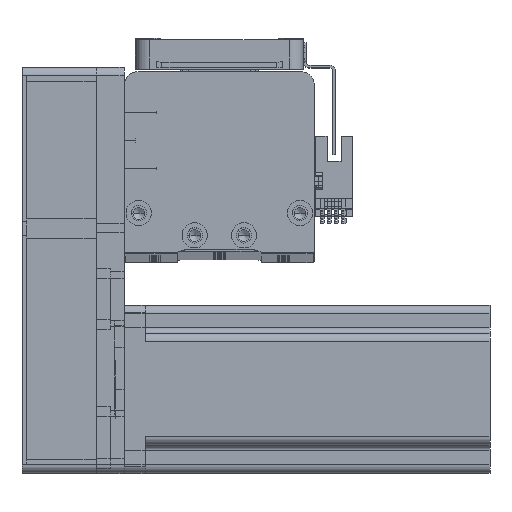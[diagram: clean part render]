
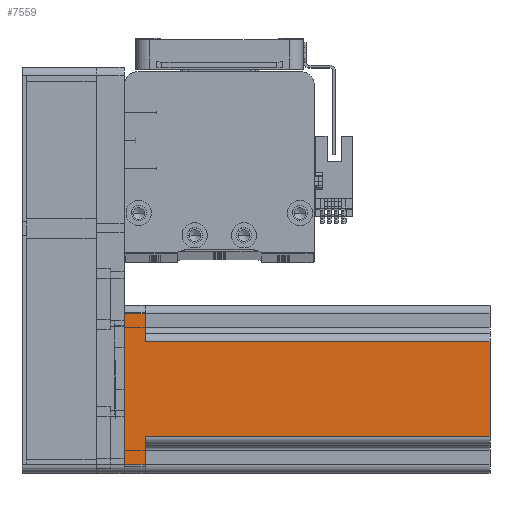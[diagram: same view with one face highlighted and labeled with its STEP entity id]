
A CAD part, top view. The second image highlights one B-rep face of the part: STEP entity #7559.
In plain terms, the highlighted planar face has unit normal (0, 0, 1) as drawn and (0, -1, 0) by its records, which use the part's own axes.
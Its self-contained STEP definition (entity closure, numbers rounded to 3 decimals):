
#13 = EDGE_CURVE ( 'NONE', #52758, #28734, #53678, .T. ) ;
#1020 = ORIENTED_EDGE ( 'NONE', *, *, #8549, .T. ) ;
#1090 = FACE_OUTER_BOUND ( 'NONE', #29022, .T. ) ;
#1161 = CARTESIAN_POINT ( 'NONE',  ( -27., -30., 7.5 ) ) ;
#2643 = CARTESIAN_POINT ( 'NONE',  ( -27., -30., 0. ) ) ;
#3677 = LINE ( 'NONE', #22196, #47276 ) ;
#4250 = CARTESIAN_POINT ( 'NONE',  ( 17., -30., 130.7 ) ) ;
#4449 = AXIS2_PLACEMENT_3D ( 'NONE', #43519, #18229, #47761 ) ;
#5114 = PLANE ( 'NONE',  #4449 ) ;
#5309 = EDGE_CURVE ( 'NONE', #52758, #37145, #21337, .T. ) ;
#5408 = VERTEX_POINT ( 'NONE', #4250 ) ;
#6187 = DIRECTION ( 'NONE',  ( 0., 0., -1. ) ) ;
#6439 = VERTEX_POINT ( 'NONE', #49629 ) ;
#6742 = ORIENTED_EDGE ( 'NONE', *, *, #13, .T. ) ;
#7559 = ADVANCED_FACE ( 'NONE', ( #1090 ), #5114, .F. ) ;
#8549 = EDGE_CURVE ( 'NONE', #28734, #6439, #18921, .T. ) ;
#8810 = VECTOR ( 'NONE', #6187, 1000. ) ;
#12660 = CARTESIAN_POINT ( 'NONE',  ( 20., -30., 7.5 ) ) ;
#16932 = DIRECTION ( 'NONE',  ( -1., 0., 0. ) ) ;
#18229 = DIRECTION ( 'NONE',  ( 0., 1., 0. ) ) ;
#18921 = LINE ( 'NONE', #33159, #30173 ) ;
#19716 = ORIENTED_EDGE ( 'NONE', *, *, #53097, .F. ) ;
#20922 = VECTOR ( 'NONE', #29290, 1000. ) ;
#21337 = LINE ( 'NONE', #49535, #52328 ) ;
#22196 = CARTESIAN_POINT ( 'NONE',  ( 27., -30., 130.7 ) ) ;
#24854 = EDGE_CURVE ( 'NONE', #31662, #37145, #48118, .T. ) ;
#25860 = ORIENTED_EDGE ( 'NONE', *, *, #24854, .T. ) ;
#28734 = VERTEX_POINT ( 'NONE', #2643 ) ;
#28998 = LINE ( 'NONE', #42550, #51409 ) ;
#29022 = EDGE_LOOP ( 'NONE', ( #19716, #25860, #35145, #6742, #1020, #41736, #32432, #37064 ) ) ;
#29105 = CARTESIAN_POINT ( 'NONE',  ( 30., -30., 130.7 ) ) ;
#29290 = DIRECTION ( 'NONE',  ( 1., 0., 0. ) ) ;
#30173 = VECTOR ( 'NONE', #49787, 1000. ) ;
#30704 = VECTOR ( 'NONE', #16932, 1000. ) ;
#30722 = DIRECTION ( 'NONE',  ( 0., 0., 1. ) ) ;
#31416 = CARTESIAN_POINT ( 'NONE',  ( 17., -30., 7.5 ) ) ;
#31662 = VERTEX_POINT ( 'NONE', #32966 ) ;
#32138 = LINE ( 'NONE', #29105, #20922 ) ;
#32432 = ORIENTED_EDGE ( 'NONE', *, *, #35355, .T. ) ;
#32966 = CARTESIAN_POINT ( 'NONE',  ( -17., -30., 130.7 ) ) ;
#33159 = CARTESIAN_POINT ( 'NONE',  ( 30., -30., 0. ) ) ;
#34091 = CARTESIAN_POINT ( 'NONE',  ( -17., -30., 130.7 ) ) ;
#35145 = ORIENTED_EDGE ( 'NONE', *, *, #5309, .F. ) ;
#35355 = EDGE_CURVE ( 'NONE', #52650, #51874, #53101, .T. ) ;
#36906 = VECTOR ( 'NONE', #46832, 1000. ) ;
#37064 = ORIENTED_EDGE ( 'NONE', *, *, #44795, .T. ) ;
#37145 = VERTEX_POINT ( 'NONE', #48812 ) ;
#41736 = ORIENTED_EDGE ( 'NONE', *, *, #53297, .T. ) ;
#42550 = CARTESIAN_POINT ( 'NONE',  ( 17., -30., 130.7 ) ) ;
#42621 = CARTESIAN_POINT ( 'NONE',  ( 27., -30., 7.5 ) ) ;
#43519 = CARTESIAN_POINT ( 'NONE',  ( 30., -30., 130.7 ) ) ;
#44795 = EDGE_CURVE ( 'NONE', #51874, #5408, #28998, .T. ) ;
#46832 = DIRECTION ( 'NONE',  ( 0., 0., -1. ) ) ;
#47276 = VECTOR ( 'NONE', #30722, 1000. ) ;
#47761 = DIRECTION ( 'NONE',  ( -1., 0., 0. ) ) ;
#48118 = LINE ( 'NONE', #34091, #36906 ) ;
#48812 = CARTESIAN_POINT ( 'NONE',  ( -17., -30., 7.5 ) ) ;
#49535 = CARTESIAN_POINT ( 'NONE',  ( -20., -30., 7.5 ) ) ;
#49629 = CARTESIAN_POINT ( 'NONE',  ( 27., -30., 0. ) ) ;
#49787 = DIRECTION ( 'NONE',  ( 1., 0., 0. ) ) ;
#49986 = CARTESIAN_POINT ( 'NONE',  ( -27., -30., 130.7 ) ) ;
#50848 = DIRECTION ( 'NONE',  ( 0., 0., 1. ) ) ;
#51409 = VECTOR ( 'NONE', #50848, 1000. ) ;
#51874 = VERTEX_POINT ( 'NONE', #31416 ) ;
#52328 = VECTOR ( 'NONE', #54265, 1000. ) ;
#52650 = VERTEX_POINT ( 'NONE', #42621 ) ;
#52758 = VERTEX_POINT ( 'NONE', #1161 ) ;
#53097 = EDGE_CURVE ( 'NONE', #31662, #5408, #32138, .T. ) ;
#53101 = LINE ( 'NONE', #12660, #30704 ) ;
#53297 = EDGE_CURVE ( 'NONE', #6439, #52650, #3677, .T. ) ;
#53678 = LINE ( 'NONE', #49986, #8810 ) ;
#54265 = DIRECTION ( 'NONE',  ( 1., 0., 0. ) ) ;
